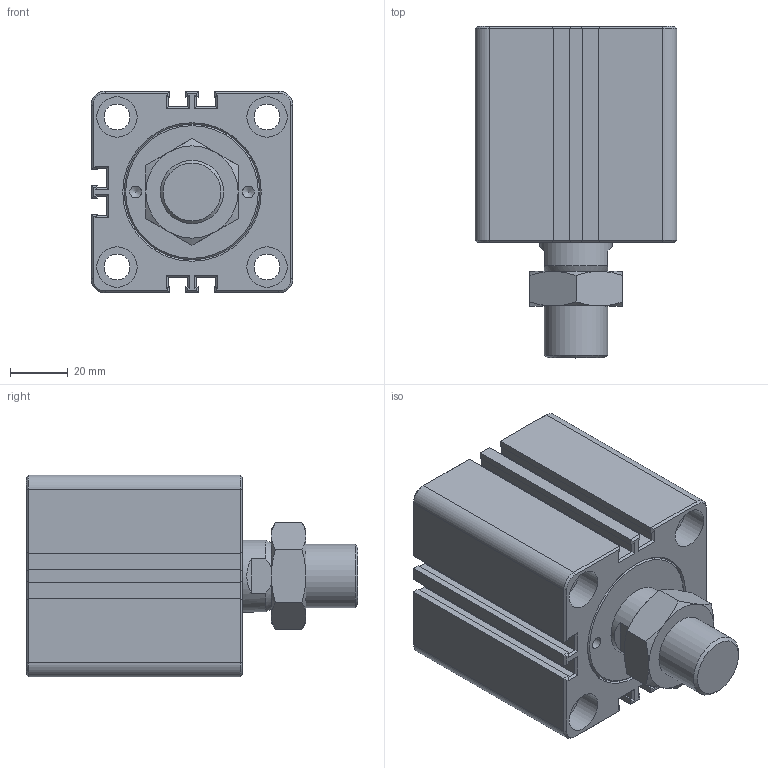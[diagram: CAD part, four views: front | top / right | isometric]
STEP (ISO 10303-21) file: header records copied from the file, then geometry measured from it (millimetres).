
FILE_DESCRIPTION(/* description */ (''),/* implementation_level */ '2;1');
FILE_NAME(/* name */ 'HTM70-SDMB40X20W',/* time_stamp */ '2019-06-05T16:25:17+08:00',/* author */ ('JEFF HUANG'),/* organization */ ('TAIWAN AMAC CLAMP INDUSTRIAL CO., LTD.'),/* preprocessor_version */ 'ST-DEVELOPER v16.7',/* originating_system */ 'DEX',/* authorisation */ $);
FILE_SCHEMA (('AUTOMOTIVE_DESIGN {1 0 10303 214 3 1 1}'));
Length unit declared in the file: millimetre
Products named in the file (1): HTM70-SDMB40X20W
Bounding box: 70 x 115 x 70 mm (x, y, z)
Volume: 344452 mm3; surface area: 51670 mm2
Topology: 1 solids, 1 shells, 305 faces, 704 edges, 423 vertices
Faces by surface type: plane 190, cone 52, bspline 36, cylinder 27
Full cylindrical faces by diameter (mm): 4.1 x2, 6 x3, 9 x4, 12 x2, 13 x2, 14 x8, 22 x1, 25 x1
Entity records: 10673 total; most frequent: CARTESIAN_POINT 2130, ORIENTED_EDGE 1304, DIRECTION 1200, EDGE_CURVE 652, VERTEX_POINT 410, LINE 408, VECTOR 408, AXIS2_PLACEMENT_3D 396
